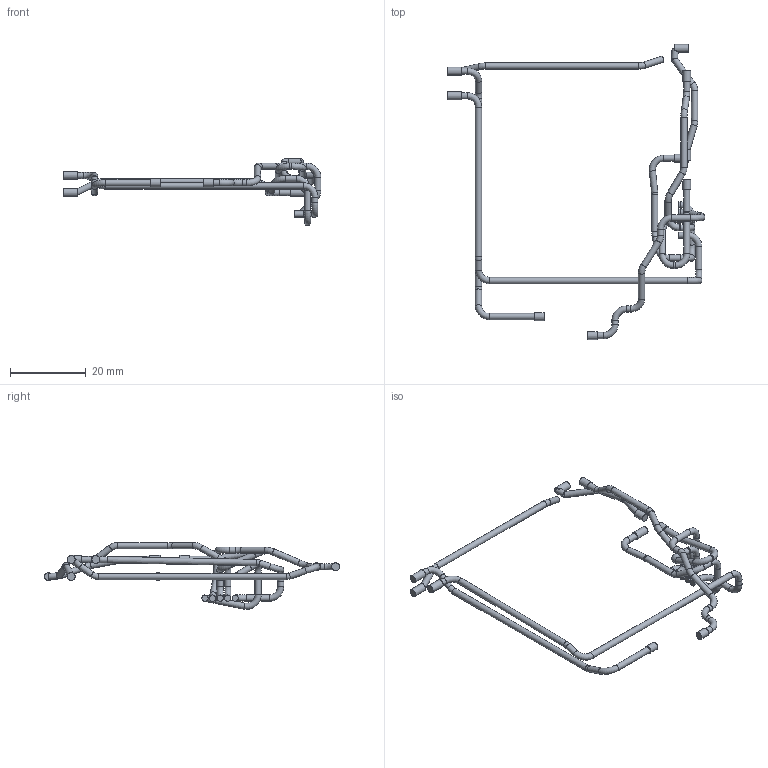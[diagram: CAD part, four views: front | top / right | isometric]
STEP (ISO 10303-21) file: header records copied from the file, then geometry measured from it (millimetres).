
FILE_DESCRIPTION(('Open CASCADE Model'),'2;1');
FILE_NAME('Open CASCADE Shape Model','2026-09-15T14:26:48',('Author'),( 'Open CASCADE'),'Open CASCADE STEP processor 7.7','Open CASCADE 7.7' ,'Unknown');
FILE_SCHEMA(('AUTOMOTIVE_DESIGN { 1 0 10303 214 1 1 1 1 }'));
Length unit declared in the file: millimetre
Products named in the file (1): J9_ROUTED_WIRE_AND_TERMINAL_CLEARANCE_MASK
Bounding box: 68.02 x 77.85 x 17.67 mm (x, y, z)
Volume: 1256.2 mm3; surface area: 3046.4 mm2
Topology: 5 solids, 5 shells, 135 faces, 248 edges, 137 vertices
Faces by surface type: cylinder 62, torus 43, plane 30
Full cylindrical faces by diameter (mm): 1.65 x52, 2.1 x10
Entity records: 7654 total; most frequent: CARTESIAN_POINT 2567, DIRECTION 973, ORIENTED_EDGE 496, PCURVE 496, DEFINITIONAL_REPRESENTATION 496, AXIS2_PLACEMENT_3D 312, LINE 306, VECTOR 306
